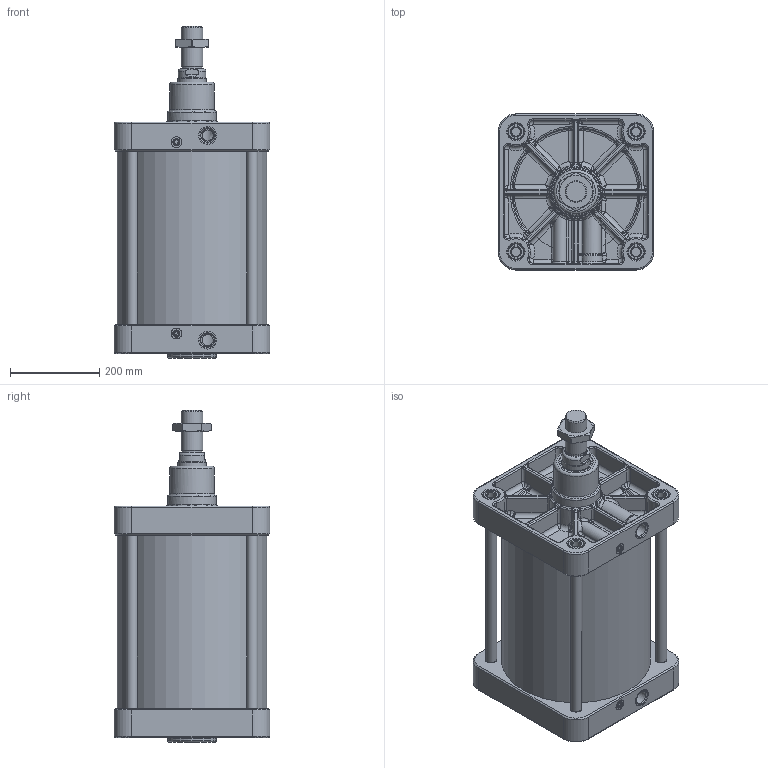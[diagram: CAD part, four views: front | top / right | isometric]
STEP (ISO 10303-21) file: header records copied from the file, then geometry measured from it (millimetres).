
FILE_DESCRIPTION(/* description */ (''),/* implementation_level */ '2;1');
FILE_NAME(/* name */ 'T:\Archivio Inventor\- 00 NUOVI STP PER SITO CON STELO CHE SI MUOVE\SERIE H - U\SERIE UDM\UDM320.---.GS.M\UDM320.300.GS.M.stp',/* time_stamp */ '2020-04-29T16:30:15+02:00',/* author */ ('carlo.corazza'),/* organization */ (''),/* preprocessor_version */ 'ST-DEVELOPER v16.5',/* originating_system */ 'Autodesk Inventor 2017',/* authorisation */ '');
FILE_SCHEMA (('AUTOMOTIVE_DESIGN { 1 0 10303 214 3 1 1 }'));
Length unit declared in the file: millimetre
Products named in the file (7): UDM320.300.GS.M; TP; STELO-300; TA; CORPO-300; TIRANTE-300; 29.2048.000.0
Assembly tree (9 placements, depth 2):
  UDM320.300.GS.M
    TP
    STELO-300
    TA
    TIRANTE-300  x4
    CORPO-300
    29.2048.000.0
Bounding box: 350 x 350 x 746 mm (x, y, z)
Volume: 15035259 mm3; surface area: 2239614.2 mm2
Topology: 9 solids, 16 shells, 1710 faces, 3937 edges, 2221 vertices
Faces by surface type: cylinder 439, bspline 432, plane 380, torus 252, cone 115, sphere 92
Full cylindrical faces by diameter (mm): 8 x2, 9 x1, 10 x1, 11 x2, 11.2 x2, 12 x2, 12.376 x1, 13.4 x4, 14 x2, 15.8 x4, 16 x6, 20.752 x8, 24 x10, 24.5 x8, 25 x6, 30.291 x2, 36 x9, 37 x8, 40 x2, 44.8 x1, 45.835 x1, 48 x1, 62 x1, 63 x1, 64 x1, 64.293 x1, 65.8 x1, 73 x1, 75 x3, 100 x1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
Entity records: 64917 total; most frequent: CARTESIAN_POINT 27888, DIRECTION 7314, ORIENTED_EDGE 7088, EDGE_CURVE 3544, AXIS2_PLACEMENT_3D 3113, VERTEX_POINT 2134, EDGE_LOOP 1966, FACE_OUTER_BOUND 1683
